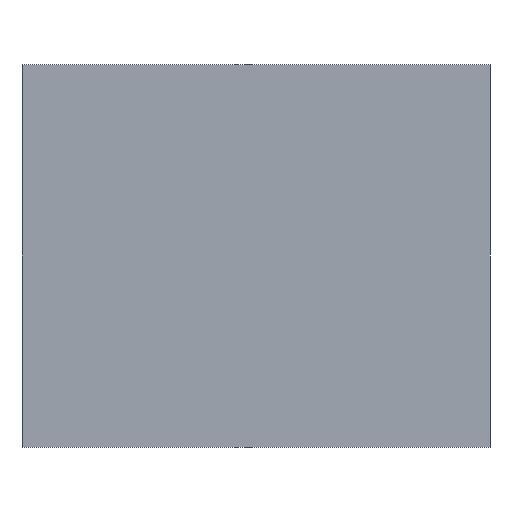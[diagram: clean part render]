
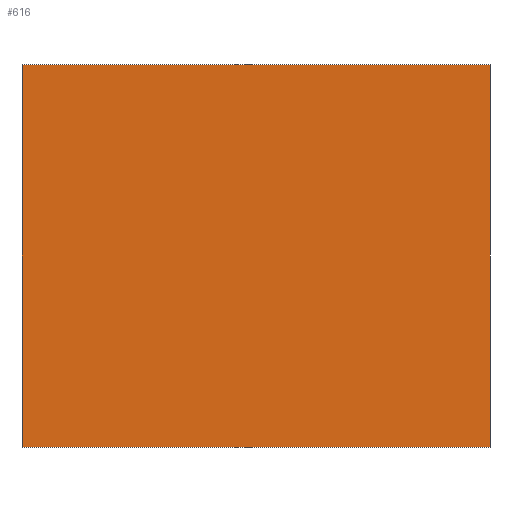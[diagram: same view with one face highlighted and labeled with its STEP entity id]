
A CAD part, front view. The second image highlights one B-rep face of the part: STEP entity #616.
In plain terms, the highlighted planar face has unit normal (0, -1, 0).
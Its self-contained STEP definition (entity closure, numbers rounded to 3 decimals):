
#56=PLANE('',#680);
#94=FACE_OUTER_BOUND('',#142,.T.);
#142=EDGE_LOOP('',(#569,#570,#571,#572));
#154=LINE('',#906,#220);
#174=LINE('',#946,#240);
#181=LINE('',#961,#247);
#208=LINE('',#1016,#274);
#220=VECTOR('',#746,10.);
#240=VECTOR('',#780,10.);
#247=VECTOR('',#795,10.);
#274=VECTOR('',#846,10.);
#304=VERTEX_POINT('',#903);
#305=VERTEX_POINT('',#905);
#318=VERTEX_POINT('',#944);
#322=VERTEX_POINT('',#960);
#362=EDGE_CURVE('',#305,#304,#154,.T.);
#382=EDGE_CURVE('',#304,#318,#174,.T.);
#389=EDGE_CURVE('',#322,#305,#181,.T.);
#416=EDGE_CURVE('',#318,#322,#208,.T.);
#569=ORIENTED_EDGE('',*,*,#416,.T.);
#570=ORIENTED_EDGE('',*,*,#389,.T.);
#571=ORIENTED_EDGE('',*,*,#362,.T.);
#572=ORIENTED_EDGE('',*,*,#382,.T.);
#616=ADVANCED_FACE('',(#94),#56,.T.);
#680=AXIS2_PLACEMENT_3D('',#1017,#847,#848);
#746=DIRECTION('',(0.,0.,1.));
#780=DIRECTION('',(-1.,0.,0.));
#795=DIRECTION('',(1.,0.,0.));
#846=DIRECTION('',(0.,0.,-1.));
#847=DIRECTION('center_axis',(0.,-1.,0.));
#848=DIRECTION('ref_axis',(0.,0.,-1.));
#903=CARTESIAN_POINT('',(-0.972,-8.,-97.464));
#905=CARTESIAN_POINT('',(-0.972,-8.,-142.464));
#906=CARTESIAN_POINT('',(-0.972,-8.,-142.464));
#944=CARTESIAN_POINT('',(-55.972,-8.,-97.464));
#946=CARTESIAN_POINT('',(-0.972,-8.,-97.464));
#960=CARTESIAN_POINT('',(-55.972,-8.,-142.464));
#961=CARTESIAN_POINT('',(-55.972,-8.,-142.464));
#1016=CARTESIAN_POINT('',(-55.972,-8.,-97.464));
#1017=CARTESIAN_POINT('Origin',(-28.472,-8.,-119.964));
